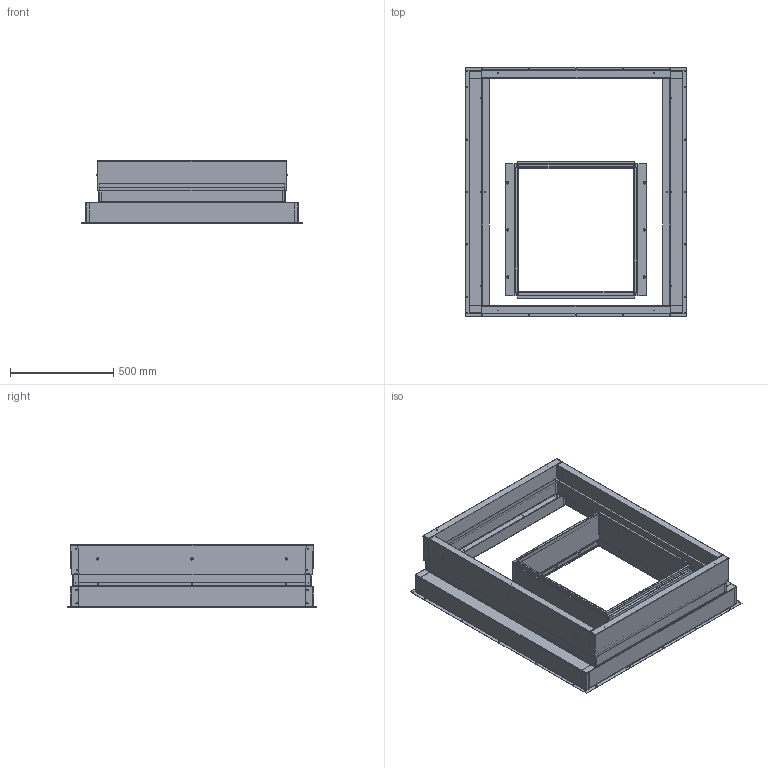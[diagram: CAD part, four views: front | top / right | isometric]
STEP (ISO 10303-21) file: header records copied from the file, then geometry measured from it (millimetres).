
FILE_DESCRIPTION (( 'STEP AP214' ), '1' );
FILE_NAME ('IWSR-A23.STEP', '2022-09-20T15:54:50', ( '' ), ( '' ), 'SwSTEP 2.0', 'SolidWorks 2022', '' );
FILE_SCHEMA (( 'AUTOMOTIVE_DESIGN' ));
Length unit declared in the file: inch
Products named in the file (12): 5021-1690; 110-345; 110-353; 110-344; 110-281; IWSR-A23; 110-347; 5021-2431; 110-349; 110-280; 110-346; 110-348
Assembly tree (22 placements, depth 2):
  IWSR-A23
    110-353  x2
    110-348  x2
    110-349  x2
    110-281  x2
    110-280  x2
    110-346  x2
    110-345  x2
    110-344  x2
    110-347  x2
    5021-1690  x2
    5021-2431  x2
Bounding box: 1070.78 x 1209.39 x 302.45 mm (x, y, z)
Volume: 9057143.4 mm3; surface area: 6984913 mm2
Topology: 22 solids, 22 shells, 1270 faces, 3110 edges, 1904 vertices
Faces by surface type: cylinder 638, plane 576, sphere 24, torus 24, bspline 8
Entity records: 20265 total; most frequent: DIRECTION 3538, CARTESIAN_POINT 3456, ORIENTED_EDGE 3110, EDGE_CURVE 1555, AXIS2_PLACEMENT_3D 1350, VERTEX_POINT 952, EDGE_LOOP 855, LINE 838
